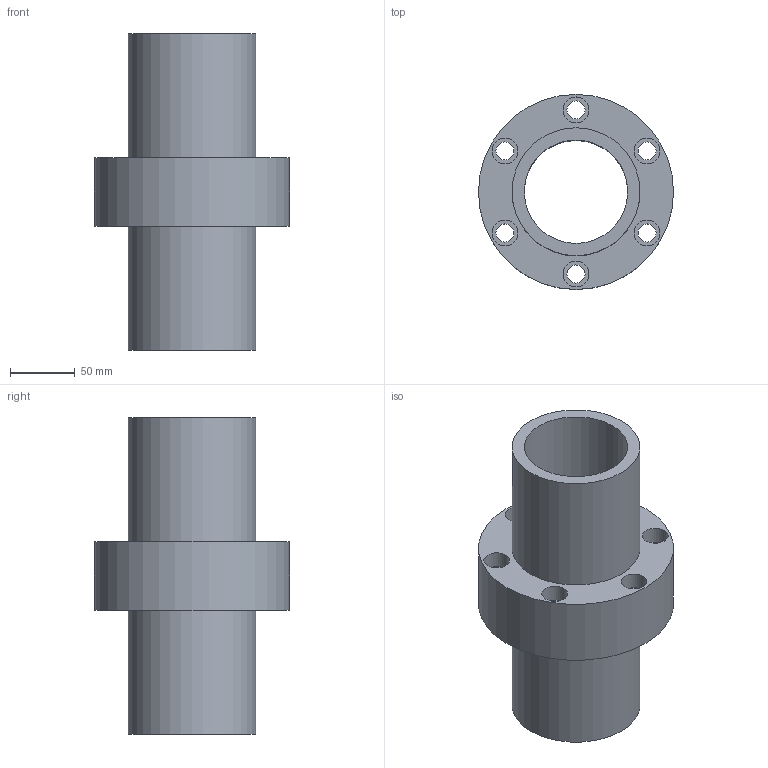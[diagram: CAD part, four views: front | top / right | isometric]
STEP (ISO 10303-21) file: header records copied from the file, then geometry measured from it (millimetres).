
FILE_DESCRIPTION(/* description */ (''),/* implementation_level */ '2;1');
FILE_NAME(/* name */ '80-10T6',/* time_stamp */ '2006-07-31T09:17:10+08:00',/* author */ (''),/* organization */ (''),/* preprocessor_version */ 'ST-DEVELOPER v9',/* originating_system */ 'UGS - NX 4.0',/* authorisation */ '');
FILE_SCHEMA (('CONFIG_CONTROL_DESIGN'));
Length unit declared in the file: millimetre
Products named in the file (1): 80-10T6
Bounding box: 151 x 151 x 245 mm (x, y, z)
Volume: 1134118.9 mm3; surface area: 185804.8 mm2
Topology: 1 solids, 1 shells, 26 faces, 53 edges, 37 vertices
Faces by surface type: cylinder 16, plane 10
Full cylindrical faces by diameter (mm): 14 x6, 20 x6, 80 x1, 99 x2, 151 x1
Entity records: 698 total; most frequent: DIRECTION 118, CARTESIAN_POINT 91, EDGE_LOOP 64, ORIENTED_EDGE 64, AXIS2_PLACEMENT_3D 59, FACE_BOUND 54, VERTEX_POINT 32, EDGE_CURVE 32
